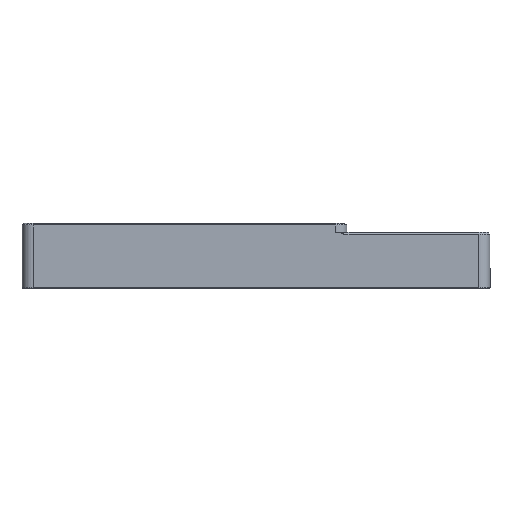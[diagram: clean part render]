
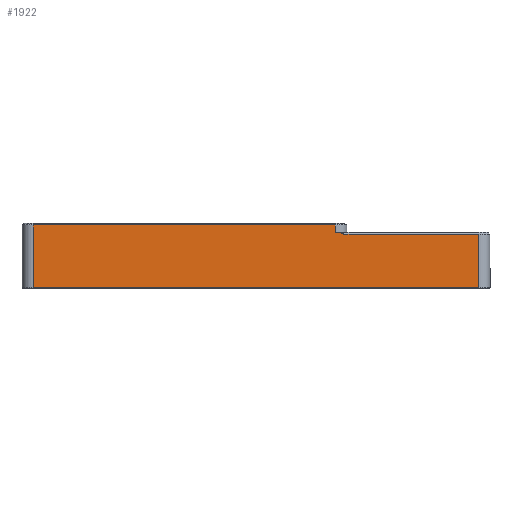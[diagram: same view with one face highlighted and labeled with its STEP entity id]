
A CAD part, left-side view. The second image highlights one B-rep face of the part: STEP entity #1922.
In plain terms, the highlighted planar face has unit normal (-1, 0, 0).
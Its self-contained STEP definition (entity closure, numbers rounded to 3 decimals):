
#1460=B_SPLINE_CURVE_WITH_KNOTS('',3,(#7214,#7215,#7216,#7217),.UNSPECIFIED.,
 .F.,.F.,(4,4),(0.,1.),.UNSPECIFIED.);
#1922=ADVANCED_FACE('',(#2229),#2092,.T.);
#2092=PLANE('',#5598);
#2229=FACE_OUTER_BOUND('',#2435,.T.);
#2435=EDGE_LOOP('',(#2857,#2858,#2859,#2860,#2861,#2862,#2863,#2864));
#2857=ORIENTED_EDGE('',*,*,#4384,.T.);
#2858=ORIENTED_EDGE('',*,*,#4385,.T.);
#2859=ORIENTED_EDGE('',*,*,#4386,.F.);
#2860=ORIENTED_EDGE('',*,*,#4387,.T.);
#2861=ORIENTED_EDGE('',*,*,#4388,.T.);
#2862=ORIENTED_EDGE('',*,*,#4389,.T.);
#2863=ORIENTED_EDGE('',*,*,#4359,.T.);
#2864=ORIENTED_EDGE('',*,*,#4326,.T.);
#3856=VERTEX_POINT('',#7064);
#3864=VERTEX_POINT('',#7088);
#3885=VERTEX_POINT('',#7158);
#3900=VERTEX_POINT('',#7211);
#3901=VERTEX_POINT('',#7213);
#3902=VERTEX_POINT('',#7218);
#3903=VERTEX_POINT('',#7220);
#3904=VERTEX_POINT('',#7222);
#4326=EDGE_CURVE('',#3856,#3864,#4885,.T.);
#4359=EDGE_CURVE('',#3885,#3856,#4907,.T.);
#4384=EDGE_CURVE('',#3864,#3900,#4924,.T.);
#4385=EDGE_CURVE('',#3900,#3901,#4925,.T.);
#4386=EDGE_CURVE('',#3902,#3901,#1460,.T.);
#4387=EDGE_CURVE('',#3902,#3903,#4926,.T.);
#4388=EDGE_CURVE('',#3903,#3904,#4927,.T.);
#4389=EDGE_CURVE('',#3904,#3885,#4928,.T.);
#4885=LINE('',#7089,#5211);
#4907=LINE('',#7157,#5233);
#4924=LINE('',#7210,#5250);
#4925=LINE('',#7212,#5251);
#4926=LINE('',#7219,#5252);
#4927=LINE('',#7221,#5253);
#4928=LINE('',#7223,#5254);
#5211=VECTOR('',#6031,1.);
#5233=VECTOR('',#6105,1.);
#5250=VECTOR('',#6156,1.);
#5251=VECTOR('',#6157,1.);
#5252=VECTOR('',#6158,1.);
#5253=VECTOR('',#6159,1.);
#5254=VECTOR('',#6160,1.);
#5598=AXIS2_PLACEMENT_3D('',#7224,#6161,#6162);
#6031=DIRECTION('',(0.,-1.,0.));
#6105=DIRECTION('',(0.,0.,-1.));
#6156=DIRECTION('',(0.,0.,1.));
#6157=DIRECTION('',(0.,1.,0.));
#6158=DIRECTION('',(0.,1.,0.));
#6159=DIRECTION('',(0.,0.,1.));
#6160=DIRECTION('',(0.,1.,0.));
#6161=DIRECTION('',(-1.,0.,0.));
#6162=DIRECTION('',(0.,0.,1.));
#7064=CARTESIAN_POINT('',(-32.,101.5,-2.252));
#7088=CARTESIAN_POINT('',(-32.,-21.3,-2.252));
#7089=CARTESIAN_POINT('',(-32.,40.1,-2.252));
#7157=CARTESIAN_POINT('',(-32.,101.5,-2.602));
#7158=CARTESIAN_POINT('',(-32.,101.5,15.098));
#7210=CARTESIAN_POINT('',(-32.,-21.3,-2.602));
#7211=CARTESIAN_POINT('',(-32.,-21.3,12.598));
#7212=CARTESIAN_POINT('',(-32.,14.732,12.598));
#7213=CARTESIAN_POINT('',(-32.,15.85,12.598));
#7214=CARTESIAN_POINT('',(-32.,16.968,13.098));
#7215=CARTESIAN_POINT('',(-32.,16.636,12.85));
#7216=CARTESIAN_POINT('',(-32.,16.269,12.598));
#7217=CARTESIAN_POINT('',(-32.,15.85,12.598));
#7218=CARTESIAN_POINT('',(-32.,16.968,13.098));
#7219=CARTESIAN_POINT('',(-32.,-24.4,13.098));
#7220=CARTESIAN_POINT('',(-32.,18.2,13.098));
#7221=CARTESIAN_POINT('',(-32.,18.2,-2.602));
#7222=CARTESIAN_POINT('',(-32.,18.2,15.098));
#7223=CARTESIAN_POINT('',(-32.,40.1,15.098));
#7224=CARTESIAN_POINT('',(-32.,40.1,-2.602));
